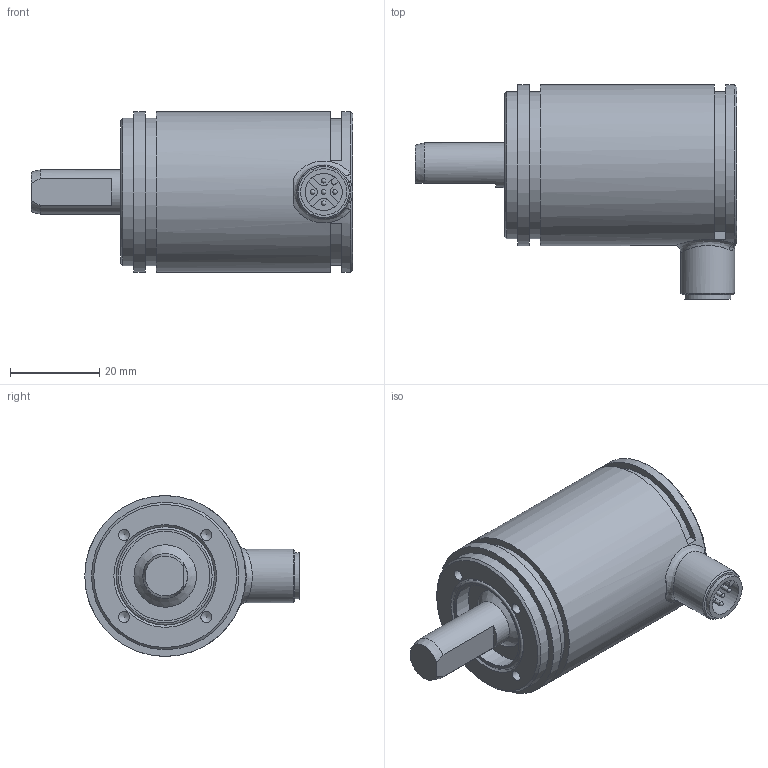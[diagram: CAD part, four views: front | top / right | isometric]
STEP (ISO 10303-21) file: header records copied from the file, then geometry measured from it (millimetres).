
FILE_DESCRIPTION((''),'2;1');
FILE_NAME('K:\Daten\12 Produkte\16 POSIROT\03 PRAS 3\121603_PRAS3AV-M12R_003_-Kunde.stp','2009-02-25T11:44:32',('kamp'),(''),'Autodesk Inventor 2008','Autodesk Inventor 2008','');
FILE_SCHEMA(('AUTOMOTIVE_DESIGN { 1 0 10303 214 1 1 1 1 }'));
Length unit declared in the file: millimetre
Products named in the file (1): 121603_PRAS3AV-M12R_003_-Kunde
Bounding box: 72 x 48 x 36 mm (x, y, z)
Volume: 52837.6 mm3; surface area: 10550.3 mm2
Topology: 1 solids, 1 shells, 83 faces, 211 edges, 134 vertices
Faces by surface type: plane 34, cylinder 22, bspline 14, cone 6, sphere 5, torus 2
Full cylindrical faces by diameter (mm): 1 x5, 8.3 x1, 10 x1, 10.4 x1, 12 x1, 14 x1, 20 x1, 21 x1, 33 x2, 36 x2
Entity records: 3052 total; most frequent: CARTESIAN_POINT 1266, DIRECTION 368, ORIENTED_EDGE 300, AXIS2_PLACEMENT_3D 158, EDGE_CURVE 150, EDGE_LOOP 131, VERTEX_POINT 117, CIRCLE 88
